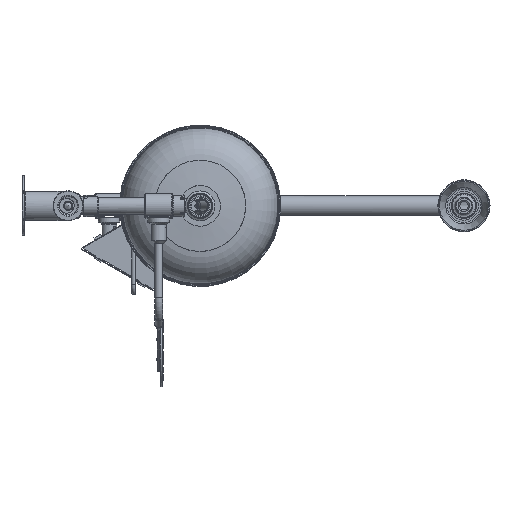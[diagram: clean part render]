
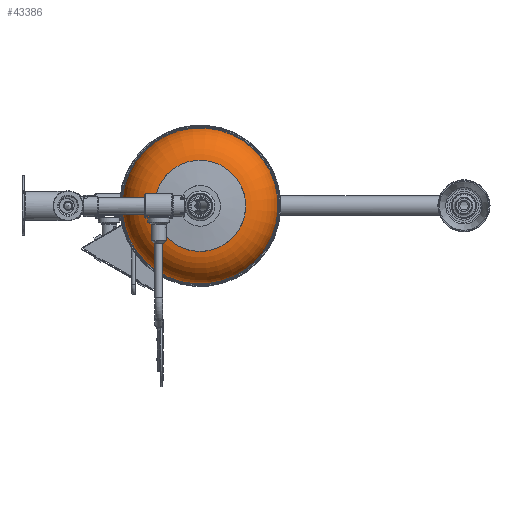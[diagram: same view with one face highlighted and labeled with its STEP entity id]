
A CAD part, front view. The second image highlights one B-rep face of the part: STEP entity #43386.
In plain terms, the highlighted toroidal (fillet/blend) face has major radius 70.102 mm and minor radius 60.8 mm.
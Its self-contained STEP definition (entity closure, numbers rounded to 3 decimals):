
#680 = ORIENTED_EDGE ( 'NONE', *, *, #36185, .T. ) ;
#2412 = DIRECTION ( 'NONE',  ( 0., 1., 0. ) ) ;
#6666 = CARTESIAN_POINT ( 'NONE',  ( 187.872, -644.7, -126.596 ) ) ;
#6713 = CARTESIAN_POINT ( 'NONE',  ( 220.25, -699.901, 0. ) ) ;
#8343 = CIRCLE ( 'NONE', #44228, 130.671 ) ;
#8594 = EDGE_LOOP ( 'NONE', ( #680 ) ) ;
#10405 = CARTESIAN_POINT ( 'NONE',  ( 220.25, -639.401, 0. ) ) ;
#12069 = CIRCLE ( 'NONE', #51451, 76.131 ) ;
#13250 = EDGE_LOOP ( 'NONE', ( #26291 ) ) ;
#15451 = EDGE_CURVE ( 'NONE', #47585, #47585, #8343, .T. ) ;
#15987 = DIRECTION ( 'NONE',  ( -0.248, 0., -0.969 ) ) ;
#26291 = ORIENTED_EDGE ( 'NONE', *, *, #15451, .F. ) ;
#27219 = TOROIDAL_SURFACE ( 'NONE', #40921, 70.102, 60.8 ) ;
#30193 = FACE_OUTER_BOUND ( 'NONE', #13250, .T. ) ;
#30969 = DIRECTION ( 'NONE',  ( -0.248, 0., -0.969 ) ) ;
#31783 = DIRECTION ( 'NONE',  ( 0., 1., 0. ) ) ;
#36185 = EDGE_CURVE ( 'NONE', #44690, #44690, #12069, .T. ) ;
#40921 = AXIS2_PLACEMENT_3D ( 'NONE', #10405, #2412, #30969 ) ;
#43096 = DIRECTION ( 'NONE',  ( -0.248, 0., -0.969 ) ) ;
#43386 = ADVANCED_FACE ( 'NONE', ( #46036, #30193 ), #27219, .T. ) ;
#43883 = CARTESIAN_POINT ( 'NONE',  ( 201.386, -699.901, -73.757 ) ) ;
#44228 = AXIS2_PLACEMENT_3D ( 'NONE', #47617, #31783, #15987 ) ;
#44690 = VERTEX_POINT ( 'NONE', #43883 ) ;
#46036 = FACE_OUTER_BOUND ( 'NONE', #8594, .T. ) ;
#47585 = VERTEX_POINT ( 'NONE', #6666 ) ;
#47617 = CARTESIAN_POINT ( 'NONE',  ( 220.25, -644.7, 0. ) ) ;
#51451 = AXIS2_PLACEMENT_3D ( 'NONE', #6713, #51660, #43096 ) ;
#51660 = DIRECTION ( 'NONE',  ( 0., 1., 0. ) ) ;
